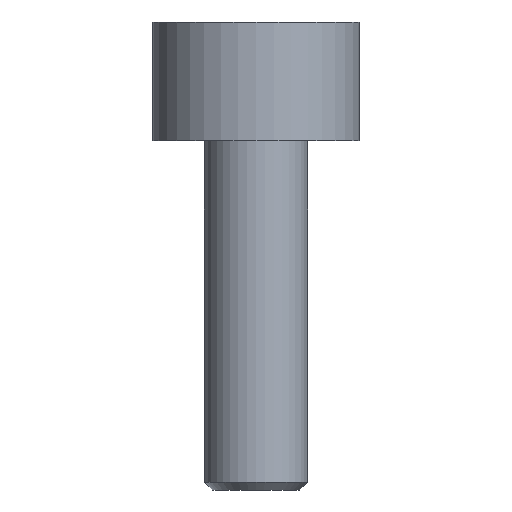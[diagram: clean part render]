
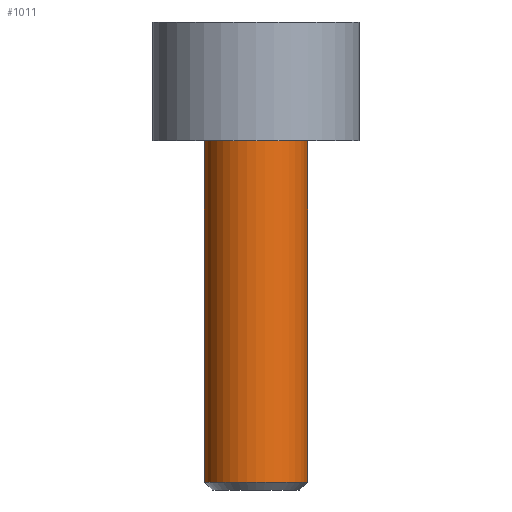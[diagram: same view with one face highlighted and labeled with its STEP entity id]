
A CAD part, front view. The second image highlights one B-rep face of the part: STEP entity #1011.
In plain terms, the highlighted cylindrical face has radius 1.3 mm (diameter 2.6 mm), a full revolution.
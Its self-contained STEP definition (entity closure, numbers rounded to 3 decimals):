
#17=CYLINDRICAL_SURFACE('',#1048,1.3);
#23=CIRCLE('',#1047,1.3);
#24=CIRCLE('',#1049,1.3);
#99=FACE_OUTER_BOUND('',#163,.T.);
#163=EDGE_LOOP('',(#893,#894,#895,#896));
#227=LINE('',#2147,#289);
#289=VECTOR('',#1156,1.3);
#468=VERTEX_POINT('',#2142);
#469=VERTEX_POINT('',#2145);
#614=EDGE_CURVE('',#468,#468,#23,.T.);
#615=EDGE_CURVE('',#469,#469,#24,.T.);
#616=EDGE_CURVE('',#469,#468,#227,.T.);
#893=ORIENTED_EDGE('',*,*,#615,.T.);
#894=ORIENTED_EDGE('',*,*,#616,.T.);
#895=ORIENTED_EDGE('',*,*,#614,.F.);
#896=ORIENTED_EDGE('',*,*,#616,.F.);
#1011=ADVANCED_FACE('',(#99),#17,.T.);
#1047=AXIS2_PLACEMENT_3D('',#2143,#1150,#1151);
#1048=AXIS2_PLACEMENT_3D('',#2144,#1152,#1153);
#1049=AXIS2_PLACEMENT_3D('',#2146,#1154,#1155);
#1150=DIRECTION('center_axis',(0.,0.,1.));
#1151=DIRECTION('ref_axis',(1.,0.,0.));
#1152=DIRECTION('center_axis',(0.,0.,1.));
#1153=DIRECTION('ref_axis',(1.,0.,0.));
#1154=DIRECTION('center_axis',(0.,0.,1.));
#1155=DIRECTION('ref_axis',(1.,0.,0.));
#1156=DIRECTION('',(0.,0.,1.));
#2142=CARTESIAN_POINT('',(-1.3,0.,8.8));
#2143=CARTESIAN_POINT('Origin',(0.,0.,8.8));
#2144=CARTESIAN_POINT('Origin',(0.,0.,4.5));
#2145=CARTESIAN_POINT('',(-1.3,0.,0.2));
#2146=CARTESIAN_POINT('Origin',(0.,0.,0.2));
#2147=CARTESIAN_POINT('',(-1.3,0.,4.5));
